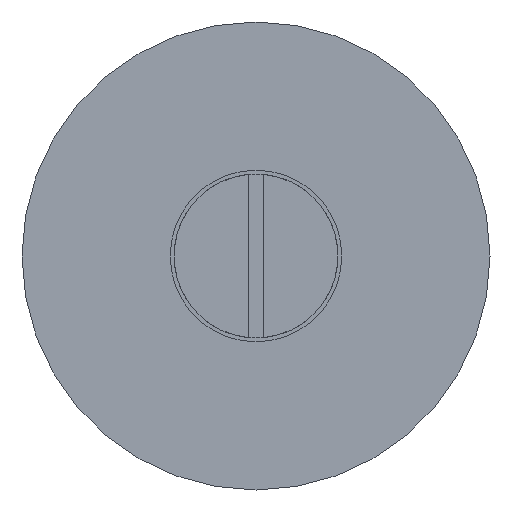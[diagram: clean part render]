
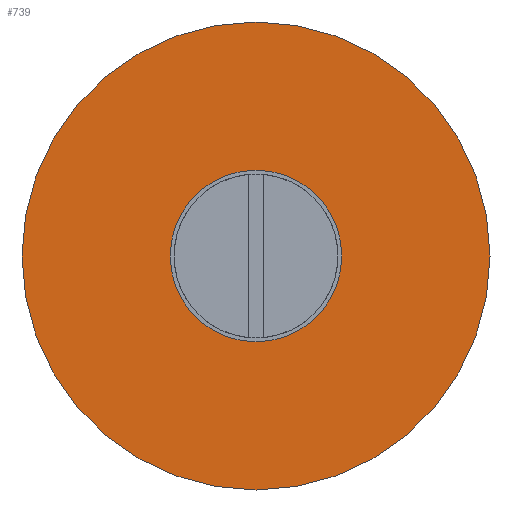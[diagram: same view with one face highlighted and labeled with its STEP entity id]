
A CAD part, front view. The second image highlights one B-rep face of the part: STEP entity #739.
In plain terms, the highlighted planar face has unit normal (0, -1, 0).
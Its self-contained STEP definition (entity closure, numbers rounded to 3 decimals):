
#2 = DIRECTION ( 'NONE',  ( 0., 0., -1. ) ) ;
#156 = FACE_BOUND ( 'NONE', #4500, .T. ) ;
#357 = CIRCLE ( 'NONE', #3234, 11. ) ;
#478 = CARTESIAN_POINT ( 'NONE',  ( 0., 0., -30. ) ) ;
#575 = CARTESIAN_POINT ( 'NONE',  ( 0., 0., 0. ) ) ;
#739 = ADVANCED_FACE ( 'NONE', ( #156, #4768 ), #1388, .F. ) ;
#953 = CIRCLE ( 'NONE', #1384, 30. ) ;
#1006 = DIRECTION ( 'NONE',  ( 0., 0., -1. ) ) ;
#1104 = ORIENTED_EDGE ( 'NONE', *, *, #1554, .F. ) ;
#1258 = CARTESIAN_POINT ( 'NONE',  ( 0., 0., 30. ) ) ;
#1384 = AXIS2_PLACEMENT_3D ( 'NONE', #575, #3609, #1006 ) ;
#1388 = PLANE ( 'NONE',  #4513 ) ;
#1554 = EDGE_CURVE ( 'NONE', #5448, #3956, #3813, .T. ) ;
#1735 = DIRECTION ( 'NONE',  ( 0., -1., 0. ) ) ;
#1743 = EDGE_CURVE ( 'NONE', #3956, #5448, #357, .T. ) ;
#1825 = DIRECTION ( 'NONE',  ( 0., 1., 0. ) ) ;
#2212 = EDGE_CURVE ( 'NONE', #4839, #5322, #953, .T. ) ;
#2378 = ORIENTED_EDGE ( 'NONE', *, *, #1743, .F. ) ;
#2554 = CARTESIAN_POINT ( 'NONE',  ( 0., 0., 0. ) ) ;
#2586 = DIRECTION ( 'NONE',  ( 0., -1., 0. ) ) ;
#2648 = AXIS2_PLACEMENT_3D ( 'NONE', #2554, #5584, #2987 ) ;
#2752 = CIRCLE ( 'NONE', #4090, 30. ) ;
#2829 = EDGE_LOOP ( 'NONE', ( #4159, #3104 ) ) ;
#2987 = DIRECTION ( 'NONE',  ( 0., 0., -1. ) ) ;
#3104 = ORIENTED_EDGE ( 'NONE', *, *, #2212, .T. ) ;
#3234 = AXIS2_PLACEMENT_3D ( 'NONE', #5191, #2586, #2 ) ;
#3526 = CARTESIAN_POINT ( 'NONE',  ( 0., 0., 11. ) ) ;
#3609 = DIRECTION ( 'NONE',  ( 0., -1., 0. ) ) ;
#3813 = CIRCLE ( 'NONE', #2648, 11. ) ;
#3956 = VERTEX_POINT ( 'NONE', #5024 ) ;
#4090 = AXIS2_PLACEMENT_3D ( 'NONE', #4335, #1735, #4772 ) ;
#4159 = ORIENTED_EDGE ( 'NONE', *, *, #4950, .T. ) ;
#4261 = CARTESIAN_POINT ( 'NONE',  ( -30., 0., 0. ) ) ;
#4335 = CARTESIAN_POINT ( 'NONE',  ( 0., 0., 0. ) ) ;
#4500 = EDGE_LOOP ( 'NONE', ( #2378, #1104 ) ) ;
#4513 = AXIS2_PLACEMENT_3D ( 'NONE', #4261, #1825, #4864 ) ;
#4768 = FACE_OUTER_BOUND ( 'NONE', #2829, .T. ) ;
#4772 = DIRECTION ( 'NONE',  ( 0., 0., -1. ) ) ;
#4839 = VERTEX_POINT ( 'NONE', #1258 ) ;
#4864 = DIRECTION ( 'NONE',  ( 0., 0., 1. ) ) ;
#4950 = EDGE_CURVE ( 'NONE', #5322, #4839, #2752, .T. ) ;
#5024 = CARTESIAN_POINT ( 'NONE',  ( 0., 0., -11. ) ) ;
#5191 = CARTESIAN_POINT ( 'NONE',  ( 0., 0., 0. ) ) ;
#5322 = VERTEX_POINT ( 'NONE', #478 ) ;
#5448 = VERTEX_POINT ( 'NONE', #3526 ) ;
#5584 = DIRECTION ( 'NONE',  ( 0., -1., 0. ) ) ;
